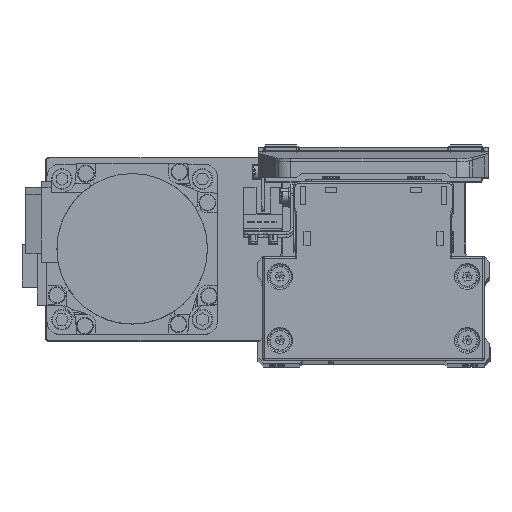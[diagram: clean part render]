
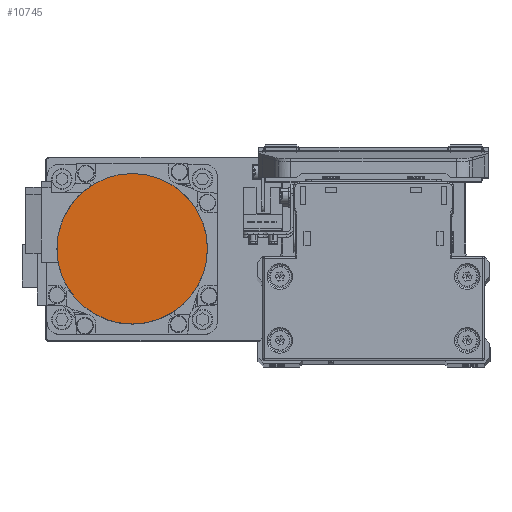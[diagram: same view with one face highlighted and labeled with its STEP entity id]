
A CAD part, top view. The second image highlights one B-rep face of the part: STEP entity #10745.
In plain terms, the highlighted planar face has unit normal (0, 0, 1) as drawn and (0, 0, -1) by its records, which use the part's own axes.
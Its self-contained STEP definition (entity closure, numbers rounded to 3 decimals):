
#1504 = AXIS2_PLACEMENT_3D ( 'NONE', #33801, #5388, #18063 ) ;
#5388 = DIRECTION ( 'NONE',  ( 0., 0., 1. ) ) ;
#6207 = EDGE_LOOP ( 'NONE', ( #38481, #21479 ) ) ;
#6815 = EDGE_CURVE ( 'NONE', #31480, #9873, #29146, .T. ) ;
#7617 = CARTESIAN_POINT ( 'NONE',  ( -26.5, 0., -109.7 ) ) ;
#8036 = CARTESIAN_POINT ( 'NONE',  ( 0., 0., -109.7 ) ) ;
#8182 = DIRECTION ( 'NONE',  ( 0., 0., 1. ) ) ;
#8486 = FACE_OUTER_BOUND ( 'NONE', #6207, .T. ) ;
#9873 = VERTEX_POINT ( 'NONE', #7617 ) ;
#10745 = ADVANCED_FACE ( 'NONE', ( #8486 ), #21171, .F. ) ;
#18063 = DIRECTION ( 'NONE',  ( 1., 0., 0. ) ) ;
#20262 = DIRECTION ( 'NONE',  ( 1., 0., 0. ) ) ;
#20638 = AXIS2_PLACEMENT_3D ( 'NONE', #8036, #20693, #33326 ) ;
#20693 = DIRECTION ( 'NONE',  ( 0., 0., 1. ) ) ;
#21171 = PLANE ( 'NONE',  #1504 ) ;
#21479 = ORIENTED_EDGE ( 'NONE', *, *, #6815, .F. ) ;
#29146 = CIRCLE ( 'NONE', #34420, 26.5 ) ;
#31480 = VERTEX_POINT ( 'NONE', #39402 ) ;
#33326 = DIRECTION ( 'NONE',  ( -1., 0., 0. ) ) ;
#33801 = CARTESIAN_POINT ( 'NONE',  ( 0., 0., -109.7 ) ) ;
#34420 = AXIS2_PLACEMENT_3D ( 'NONE', #36585, #8182, #20262 ) ;
#36016 = EDGE_CURVE ( 'NONE', #9873, #31480, #38505, .T. ) ;
#36585 = CARTESIAN_POINT ( 'NONE',  ( 0., 0., -109.7 ) ) ;
#38481 = ORIENTED_EDGE ( 'NONE', *, *, #36016, .F. ) ;
#38505 = CIRCLE ( 'NONE', #20638, 26.5 ) ;
#39402 = CARTESIAN_POINT ( 'NONE',  ( 26.5, 0., -109.7 ) ) ;
